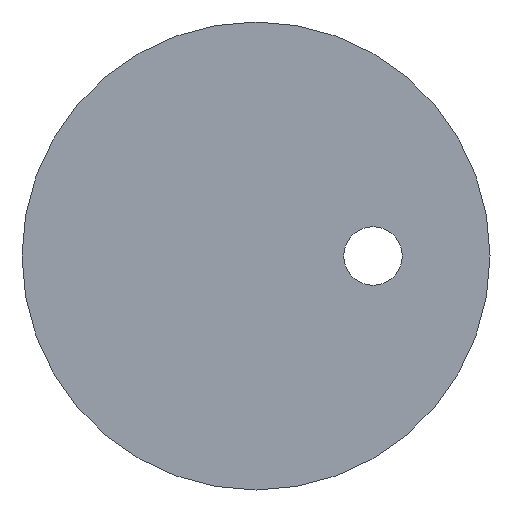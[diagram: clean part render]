
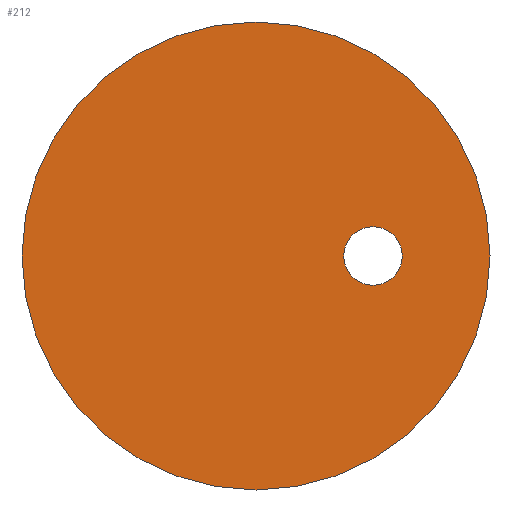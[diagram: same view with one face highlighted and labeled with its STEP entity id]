
A CAD part, front view. The second image highlights one B-rep face of the part: STEP entity #212.
In plain terms, the highlighted planar face has unit normal (0, -1, 0).
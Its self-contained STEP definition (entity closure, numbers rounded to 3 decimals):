
#9 = DIRECTION ( 'NONE',  ( 0., 0., 1. ) ) ;
#17 = CIRCLE ( 'NONE', #195, 1. ) ;
#18 = VERTEX_POINT ( 'NONE', #158 ) ;
#19 = CIRCLE ( 'NONE', #60, 8. ) ;
#21 = VERTEX_POINT ( 'NONE', #174 ) ;
#29 = DIRECTION ( 'NONE',  ( 0., 0., 1. ) ) ;
#37 = EDGE_CURVE ( 'NONE', #21, #155, #17, .T. ) ;
#39 = ORIENTED_EDGE ( 'NONE', *, *, #37, .T. ) ;
#49 = DIRECTION ( 'NONE',  ( 0., 1., 0. ) ) ;
#50 = DIRECTION ( 'NONE',  ( 0., 1., 0. ) ) ;
#60 = AXIS2_PLACEMENT_3D ( 'NONE', #66, #92, #79 ) ;
#65 = VERTEX_POINT ( 'NONE', #101 ) ;
#66 = CARTESIAN_POINT ( 'NONE',  ( 0., 0., 0. ) ) ;
#67 = EDGE_CURVE ( 'NONE', #65, #18, #165, .T. ) ;
#68 = CARTESIAN_POINT ( 'NONE',  ( 0., 0., 0. ) ) ;
#78 = CIRCLE ( 'NONE', #122, 1. ) ;
#79 = DIRECTION ( 'NONE',  ( 0., 0., 1. ) ) ;
#92 = DIRECTION ( 'NONE',  ( 0., 1., 0. ) ) ;
#93 = CARTESIAN_POINT ( 'NONE',  ( 4., 0., 0. ) ) ;
#96 = CARTESIAN_POINT ( 'NONE',  ( 4., 0., 1. ) ) ;
#101 = CARTESIAN_POINT ( 'NONE',  ( 0., 0., -8. ) ) ;
#104 = ORIENTED_EDGE ( 'NONE', *, *, #67, .F. ) ;
#108 = DIRECTION ( 'NONE',  ( 0., 1., 0. ) ) ;
#118 = EDGE_CURVE ( 'NONE', #155, #21, #78, .T. ) ;
#121 = CARTESIAN_POINT ( 'NONE',  ( 0., 0., 0. ) ) ;
#122 = AXIS2_PLACEMENT_3D ( 'NONE', #93, #205, #9 ) ;
#138 = ORIENTED_EDGE ( 'NONE', *, *, #199, .F. ) ;
#143 = DIRECTION ( 'NONE',  ( 0., 0., 1. ) ) ;
#146 = EDGE_LOOP ( 'NONE', ( #104, #138 ) ) ;
#149 = FACE_OUTER_BOUND ( 'NONE', #146, .T. ) ;
#150 = AXIS2_PLACEMENT_3D ( 'NONE', #121, #108, #203 ) ;
#155 = VERTEX_POINT ( 'NONE', #96 ) ;
#156 = FACE_BOUND ( 'NONE', #190, .T. ) ;
#157 = PLANE ( 'NONE',  #150 ) ;
#158 = CARTESIAN_POINT ( 'NONE',  ( 0., 0., 8. ) ) ;
#164 = CARTESIAN_POINT ( 'NONE',  ( 4., 0., 0. ) ) ;
#165 = CIRCLE ( 'NONE', #173, 8. ) ;
#173 = AXIS2_PLACEMENT_3D ( 'NONE', #68, #49, #143 ) ;
#174 = CARTESIAN_POINT ( 'NONE',  ( 4., 0., -1. ) ) ;
#190 = EDGE_LOOP ( 'NONE', ( #39, #206 ) ) ;
#195 = AXIS2_PLACEMENT_3D ( 'NONE', #164, #50, #29 ) ;
#199 = EDGE_CURVE ( 'NONE', #18, #65, #19, .T. ) ;
#203 = DIRECTION ( 'NONE',  ( 0., 0., 1. ) ) ;
#205 = DIRECTION ( 'NONE',  ( 0., 1., 0. ) ) ;
#206 = ORIENTED_EDGE ( 'NONE', *, *, #118, .T. ) ;
#212 = ADVANCED_FACE ( 'NONE', ( #149, #156 ), #157, .F. ) ;
